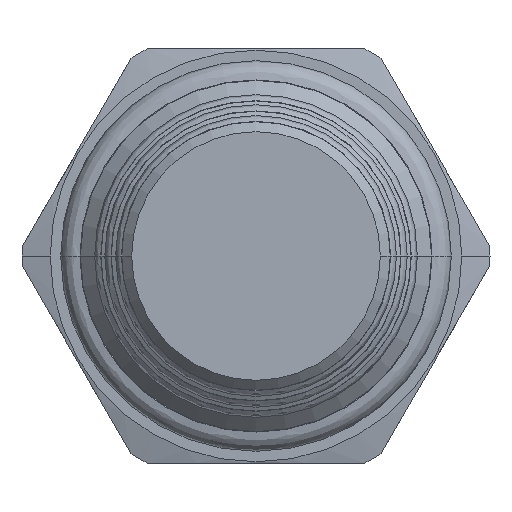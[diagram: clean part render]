
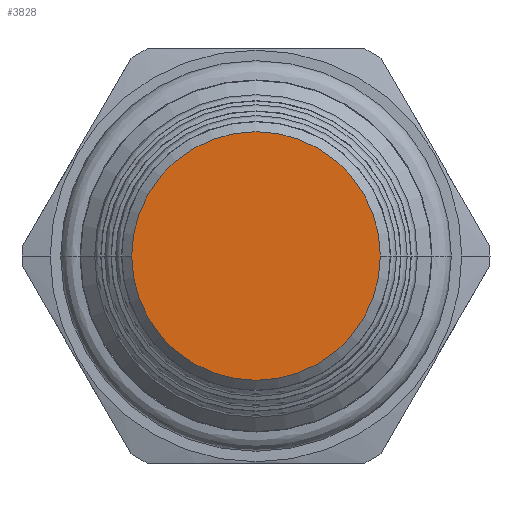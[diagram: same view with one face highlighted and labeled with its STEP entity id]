
A CAD part, front view. The second image highlights one B-rep face of the part: STEP entity #3828.
In plain terms, the highlighted planar face has unit normal (0, -1, 0).
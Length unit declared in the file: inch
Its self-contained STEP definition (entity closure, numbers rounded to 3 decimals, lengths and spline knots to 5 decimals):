
#1477=CARTESIAN_POINT('',(0.,-3.75,0.));
#1478=DIRECTION('',(0.,-1.,0.));
#1479=DIRECTION('',(-1.,0.,0.));
#1480=AXIS2_PLACEMENT_3D('',#1477,#1478,#1479);
#1495=CARTESIAN_POINT('',(0.,-3.75,0.));
#1496=DIRECTION('',(0.,1.,0.));
#1497=DIRECTION('',(-1.,0.,0.));
#1498=AXIS2_PLACEMENT_3D('',#1495,#1496,#1497);
#1553=CARTESIAN_POINT('',(-0.3745,-3.75,0.));
#1554=CARTESIAN_POINT('',(0.3745,-3.75,0.));
#1555=VERTEX_POINT('',#1553);
#1556=VERTEX_POINT('',#1554);
#3818=CARTESIAN_POINT('',(0.,-3.75,0.));
#3819=DIRECTION('',(0.,1.,0.));
#3820=DIRECTION('',(1.,0.,0.));
#3821=AXIS2_PLACEMENT_3D('',#3818,#3819,#3820);
#3822=PLANE('',#3821);
#3823=ORIENTED_EDGE('',*,*,#3808,.F.);
#3825=ORIENTED_EDGE('',*,*,#3824,.T.);
#3826=EDGE_LOOP('',(#3823,#3825));
#3827=FACE_OUTER_BOUND('',#3826,.F.);
#3828=ADVANCED_FACE('',(#3827),#3822,.F.);
#1481=CIRCLE('',#1480,0.3745);
#1499=CIRCLE('',#1498,0.3745);
#3808=EDGE_CURVE('',#1555,#1556,#1481,.T.);
#3824=EDGE_CURVE('',#1555,#1556,#1499,.T.);
